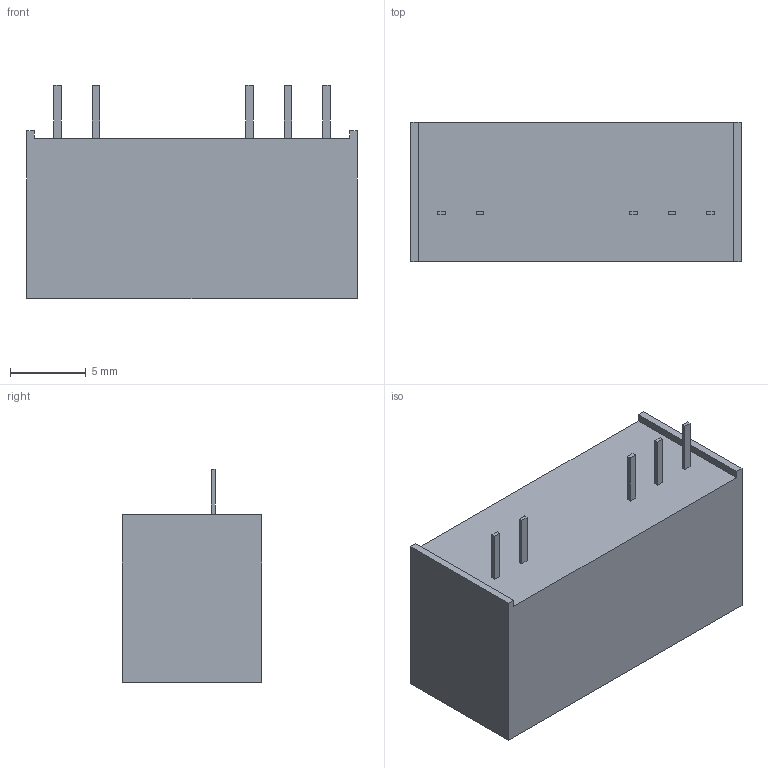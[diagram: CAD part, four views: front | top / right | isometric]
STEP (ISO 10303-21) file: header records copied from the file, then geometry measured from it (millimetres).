
FILE_DESCRIPTION(/* description */ ('Unknown'),/* implementation_level */ '2;1');
FILE_NAME(/* name */ 'ITX(SA)',/* time_stamp */ '2017-11-28T15:22:15+08:00',/* author */ ('Unknown'),/* organization */ ('Unknown'),/* preprocessor_version */ 'ST-DEVELOPER v16.7',/* originating_system */ 'DEX',/* authorisation */ $);
FILE_SCHEMA (('AUTOMOTIVE_DESIGN {1 0 10303 214 3 1 1}'));
Length unit declared in the file: millimetre
Products named in the file (1): ITX(SA)
Bounding box: 21.85 x 9.2 x 14.1 mm (x, y, z)
Volume: 2137.6 mm3; surface area: 1106 mm2
Topology: 1 solids, 1 shells, 35 faces, 84 edges, 56 vertices
Faces by surface type: plane 35
Entity records: 1028 total; most frequent: CARTESIAN_POINT 176, ORIENTED_EDGE 168, DIRECTION 156, EDGE_CURVE 84, LINE 84, VECTOR 84, VERTEX_POINT 56, EDGE_LOOP 40
